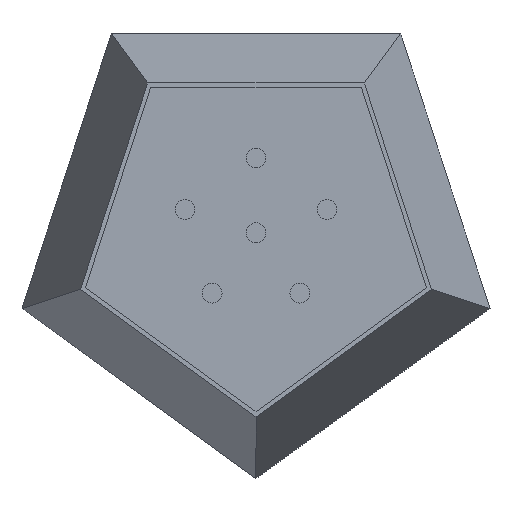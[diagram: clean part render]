
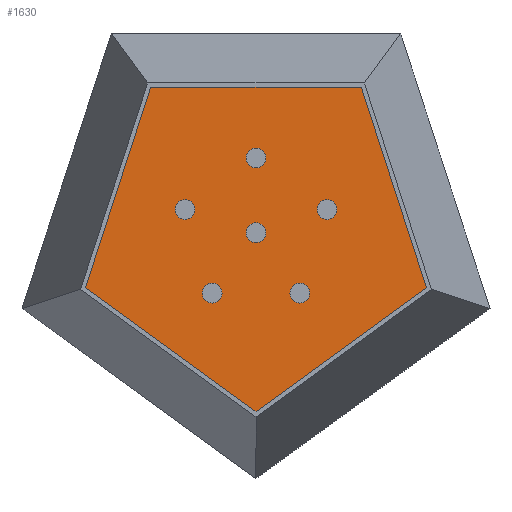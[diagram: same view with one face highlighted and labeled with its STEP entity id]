
A CAD part, top view. The second image highlights one B-rep face of the part: STEP entity #1630.
In plain terms, the highlighted planar face has unit normal (0, 0, 1).
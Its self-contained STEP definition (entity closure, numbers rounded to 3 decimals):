
#14=CIRCLE('',#1708,4.);
#16=CIRCLE('',#1711,4.);
#18=CIRCLE('',#1714,4.);
#20=CIRCLE('',#1717,4.);
#22=CIRCLE('',#1720,4.);
#24=CIRCLE('',#1723,4.);
#41=FACE_BOUND('',#227,.T.);
#42=FACE_BOUND('',#228,.T.);
#43=FACE_BOUND('',#229,.T.);
#44=FACE_BOUND('',#230,.T.);
#45=FACE_BOUND('',#231,.T.);
#46=FACE_BOUND('',#232,.T.);
#128=FACE_OUTER_BOUND('',#226,.T.);
#226=EDGE_LOOP('',(#1343,#1344,#1345,#1346,#1347));
#227=EDGE_LOOP('',(#1348));
#228=EDGE_LOOP('',(#1349));
#229=EDGE_LOOP('',(#1350));
#230=EDGE_LOOP('',(#1351));
#231=EDGE_LOOP('',(#1352));
#232=EDGE_LOOP('',(#1353));
#423=LINE('',#2541,#629);
#424=LINE('',#2543,#630);
#425=LINE('',#2545,#631);
#426=LINE('',#2547,#632);
#427=LINE('',#2548,#633);
#629=VECTOR('',#2094,10.);
#630=VECTOR('',#2095,10.);
#631=VECTOR('',#2096,10.);
#632=VECTOR('',#2097,10.);
#633=VECTOR('',#2098,10.);
#740=VERTEX_POINT('',#2380);
#742=VERTEX_POINT('',#2386);
#744=VERTEX_POINT('',#2392);
#746=VERTEX_POINT('',#2398);
#748=VERTEX_POINT('',#2404);
#750=VERTEX_POINT('',#2410);
#791=VERTEX_POINT('',#2539);
#792=VERTEX_POINT('',#2540);
#793=VERTEX_POINT('',#2542);
#794=VERTEX_POINT('',#2544);
#795=VERTEX_POINT('',#2546);
#913=EDGE_CURVE('',#740,#740,#14,.T.);
#916=EDGE_CURVE('',#742,#742,#16,.T.);
#919=EDGE_CURVE('',#744,#744,#18,.T.);
#922=EDGE_CURVE('',#746,#746,#20,.T.);
#925=EDGE_CURVE('',#748,#748,#22,.T.);
#928=EDGE_CURVE('',#750,#750,#24,.T.);
#989=EDGE_CURVE('',#791,#792,#423,.T.);
#990=EDGE_CURVE('',#793,#791,#424,.T.);
#991=EDGE_CURVE('',#794,#793,#425,.T.);
#992=EDGE_CURVE('',#795,#794,#426,.T.);
#993=EDGE_CURVE('',#792,#795,#427,.T.);
#1343=ORIENTED_EDGE('',*,*,#989,.F.);
#1344=ORIENTED_EDGE('',*,*,#990,.F.);
#1345=ORIENTED_EDGE('',*,*,#991,.F.);
#1346=ORIENTED_EDGE('',*,*,#992,.F.);
#1347=ORIENTED_EDGE('',*,*,#993,.F.);
#1348=ORIENTED_EDGE('',*,*,#913,.T.);
#1349=ORIENTED_EDGE('',*,*,#916,.T.);
#1350=ORIENTED_EDGE('',*,*,#919,.T.);
#1351=ORIENTED_EDGE('',*,*,#922,.T.);
#1352=ORIENTED_EDGE('',*,*,#925,.T.);
#1353=ORIENTED_EDGE('',*,*,#928,.T.);
#1538=PLANE('',#1749);
#1630=ADVANCED_FACE('',(#128,#41,#42,#43,#44,#45,#46),#1538,.T.);
#1708=AXIS2_PLACEMENT_3D('',#2382,#1945,#1946);
#1711=AXIS2_PLACEMENT_3D('',#2388,#1952,#1953);
#1714=AXIS2_PLACEMENT_3D('',#2394,#1959,#1960);
#1717=AXIS2_PLACEMENT_3D('',#2400,#1966,#1967);
#1720=AXIS2_PLACEMENT_3D('',#2406,#1973,#1974);
#1723=AXIS2_PLACEMENT_3D('',#2412,#1980,#1981);
#1749=AXIS2_PLACEMENT_3D('',#2538,#2092,#2093);
#1945=DIRECTION('center_axis',(0.,0.,-1.));
#1946=DIRECTION('ref_axis',(-1.,0.,0.));
#1952=DIRECTION('center_axis',(0.,0.,-1.));
#1953=DIRECTION('ref_axis',(-1.,0.,0.));
#1959=DIRECTION('center_axis',(0.,0.,-1.));
#1960=DIRECTION('ref_axis',(-1.,0.,0.));
#1966=DIRECTION('center_axis',(0.,0.,-1.));
#1967=DIRECTION('ref_axis',(-1.,0.,0.));
#1973=DIRECTION('center_axis',(0.,0.,-1.));
#1974=DIRECTION('ref_axis',(-1.,0.,0.));
#1980=DIRECTION('center_axis',(0.,0.,-1.));
#1981=DIRECTION('ref_axis',(-1.,0.,0.));
#2092=DIRECTION('center_axis',(0.,0.,1.));
#2093=DIRECTION('ref_axis',(1.,0.,0.));
#2094=DIRECTION('',(-0.809,0.588,0.));
#2095=DIRECTION('',(-0.809,-0.588,0.));
#2096=DIRECTION('',(0.309,-0.951,0.));
#2097=DIRECTION('',(1.,0.,0.));
#2098=DIRECTION('',(0.309,0.951,0.));
#2380=CARTESIAN_POINT('',(-13.634,-24.271,14.));
#2382=CARTESIAN_POINT('Origin',(-17.634,-24.271,14.));
#2386=CARTESIAN_POINT('',(21.634,-24.271,14.));
#2388=CARTESIAN_POINT('Origin',(17.634,-24.271,14.));
#2392=CARTESIAN_POINT('',(-24.532,9.271,14.));
#2394=CARTESIAN_POINT('Origin',(-28.532,9.271,14.));
#2398=CARTESIAN_POINT('',(4.,0.,14.));
#2400=CARTESIAN_POINT('Origin',(0.,0.,14.));
#2404=CARTESIAN_POINT('',(32.532,9.271,14.));
#2406=CARTESIAN_POINT('Origin',(28.532,9.271,14.));
#2410=CARTESIAN_POINT('',(4.,30.,14.));
#2412=CARTESIAN_POINT('Origin',(0.,30.,14.));
#2538=CARTESIAN_POINT('Origin',(0.,-9.443,
14.));
#2539=CARTESIAN_POINT('',(0.,-78.956,14.));
#2540=CARTESIAN_POINT('',(-75.092,-24.399,14.));
#2541=CARTESIAN_POINT('',(-52.934,-40.497,14.));
#2542=CARTESIAN_POINT('',(75.092,-24.399,14.));
#2543=CARTESIAN_POINT('',(17.667,-66.12,14.));
#2544=CARTESIAN_POINT('',(46.409,63.877,14.));
#2545=CARTESIAN_POINT('',(68.873,-5.261,14.));
#2546=CARTESIAN_POINT('',(-46.409,63.877,14.));
#2547=CARTESIAN_POINT('',(21.796,63.877,14.));
#2548=CARTESIAN_POINT('',(-55.403,36.198,14.));
